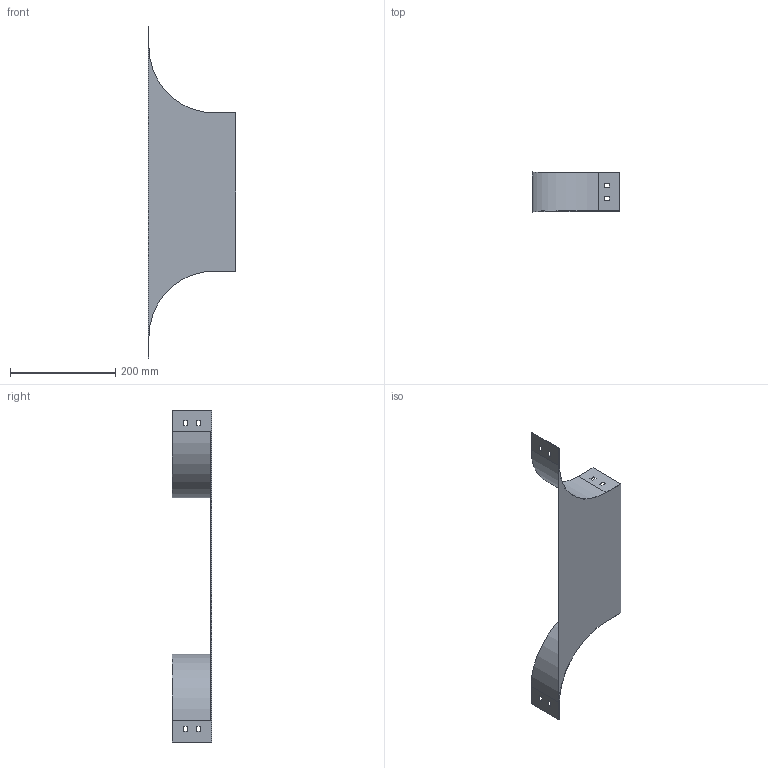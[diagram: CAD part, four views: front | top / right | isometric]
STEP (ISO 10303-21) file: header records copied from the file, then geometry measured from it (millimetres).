
FILE_DESCRIPTION (( 'STEP AP214' ), '1' );
FILE_NAME ('RL_307.step', '2025-07-16T09:25:22', ( '' ), ( '' ), 'SwSTEP 2.0', 'SolidWorks 2023', '' );
FILE_SCHEMA (( 'AUTOMOTIVE_DESIGN' ));
Length unit declared in the file: millimetre
Products named in the file (1): RL_307
Bounding box: 166.5 x 75 x 630 mm (x, y, z)
Volume: 146081.8 mm3; surface area: 197853.3 mm2
Topology: 1 solids, 1 shells, 50 faces, 144 edges, 96 vertices
Faces by surface type: plane 46, cylinder 4
Entity records: 1671 total; most frequent: CARTESIAN_POINT 291, ORIENTED_EDGE 288, DIRECTION 254, EDGE_CURVE 144, VECTOR 136, LINE 136, VERTEX_POINT 96, EDGE_LOOP 66
